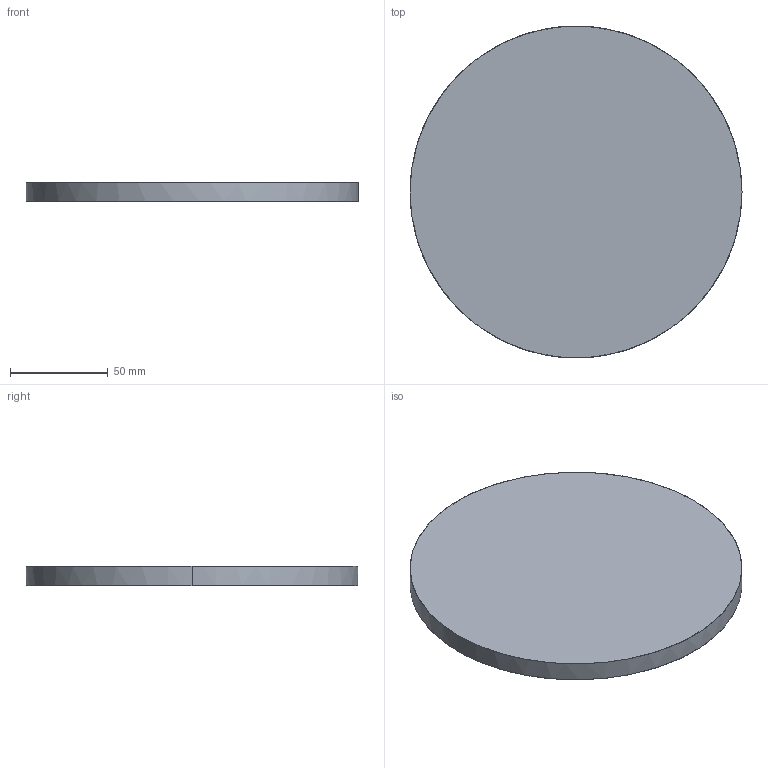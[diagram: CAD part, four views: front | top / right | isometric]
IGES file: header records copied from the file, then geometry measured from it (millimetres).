
Start section: Comment
Global section: file name: quartz_window.iges; native system:  By UGS Corp.; preprocessor: XPlus GENERIC/IGES 3.0; author: Author; organization: Title; date: 20090504.150727; units: millimetre
Bounding box: 170 x 169.79 x 10 mm (x, y, z)
Surface area: 50736.7 mm2 (no closed solid volume)
Topology: 0 solids, 0 shells, 4 faces, 12 edges, 12 vertices
Faces by surface type: bspline 4
